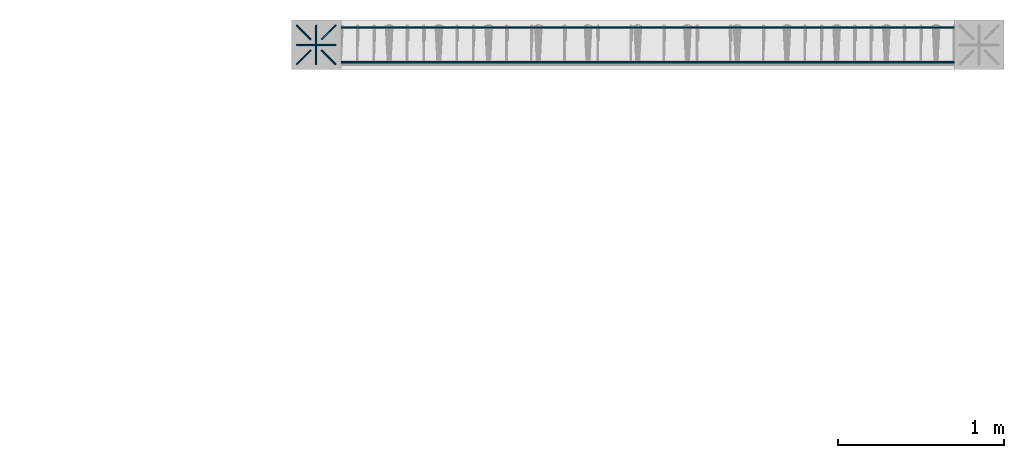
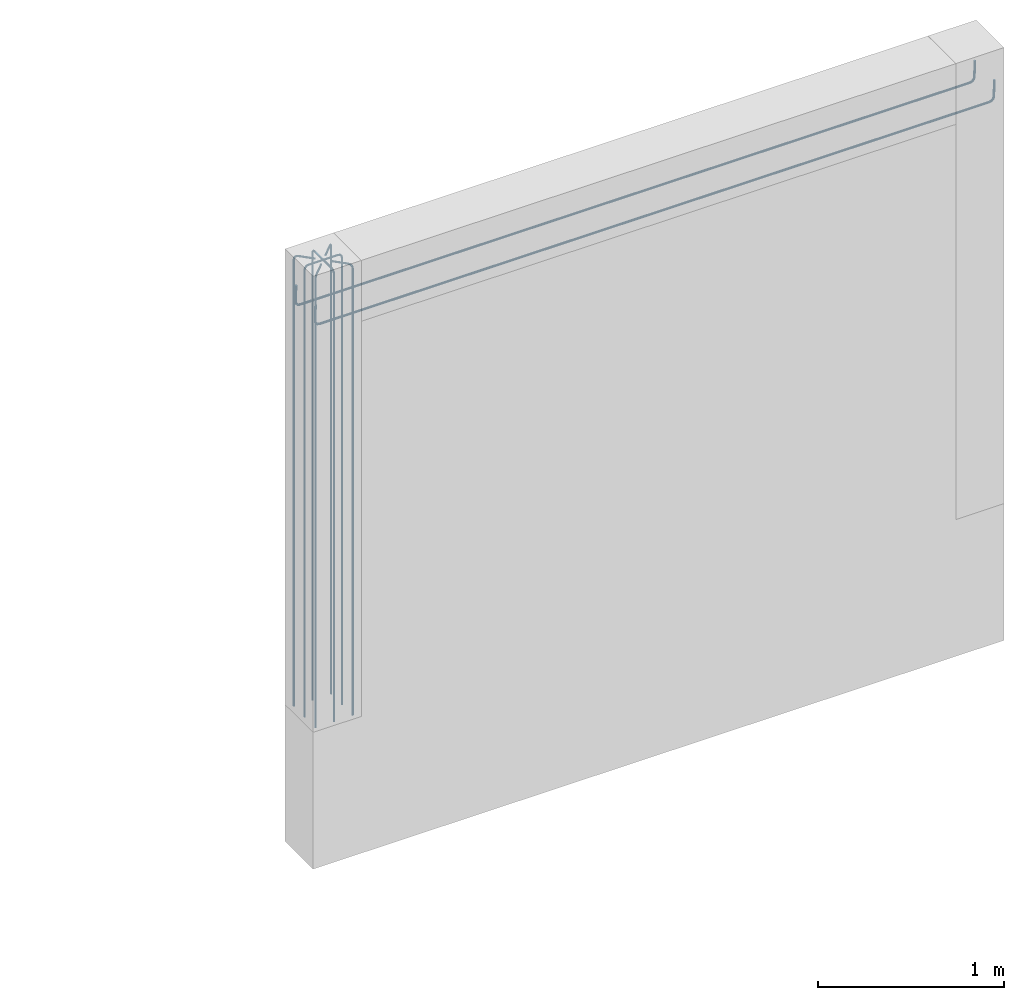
# One storey, part 7 of 11: 2 reinforcing bars.
"""IFC2X3 building model written with IfcOpenShell, lengths in metres."""

from ifc_helpers import new_model, entity, si_unit, direction, frame, origin, place, context, subcontext, project, spatial, shape, source, transform, mapped, element, save


model = new_model("IFC2X3")

# Units and contexts
model_context = context("Model", 3, precision=0.0, world=origin(), true_north=direction((0.0, 1.0)))
plan_context = context("Plan", 3, precision=0.0, world=origin(), true_north=direction((0.0, 1.0)))
body_context = subcontext(model_context, "Body", "Model", "MODEL_VIEW", scale=1.0)
ifc_project = project(units=[si_unit("LENGTHUNIT", "METRE"), si_unit("AREAUNIT", "SQUARE_METRE"), si_unit("VOLUMEUNIT", "CUBIC_METRE"), si_unit("PLANEANGLEUNIT", "RADIAN"), si_unit("THERMODYNAMICTEMPERATUREUNIT", "DEGREE_CELSIUS"), si_unit("FORCEUNIT", "NEWTON"), si_unit("MASSUNIT", "GRAM", prefix="KILO")], contexts=[model_context, plan_context])

# Site, building, storey
placement = place(None, origin())
site = spatial("IfcSite", under=ifc_project, at=placement, Name="Default Site", CompositionType="ELEMENT")
building = spatial("IfcBuilding", under=site, at=placement, Name="Default Building", CompositionType="ELEMENT")
storey_placement = place(placement, frame((0.0, 0.0, 3.0), z_axis=(1.0, 0.0, 0.0), x_axis=(0.0, 0.0, 1.0)))
storey = spatial("IfcBuildingStorey", under=building, at=storey_placement, Name="Piano 1", CompositionType="ELEMENT", Elevation=3.0)

# Reinforcing bars
shared_shape_1 = source(origin(), body_context, None, "AdvancedSweptSolid", [
    entity("IfcSweptDiskSolid", entity("IfcCompositeCurve", [entity("IfcCompositeCurveSegment", "CONTINUOUS", True, entity("IfcPolyline", [entity("IfcCartesianPoint", [0.0, 0.0, 0.0]), entity("IfcCartesianPoint", [0.0, 0.005059, -0.112029]), entity("IfcCartesianPoint", [0.003751, 0.005691, -0.126014]), entity("IfcCartesianPoint", [0.014, 0.006153, -0.136253]), entity("IfcCartesianPoint", [0.028, 0.006323, -0.14]), entity("IfcCartesianPoint", [4.196, 0.006323, -0.14]), entity("IfcCartesianPoint", [4.21, 0.006153, -0.136253]), entity("IfcCartesianPoint", [4.220249, 0.005691, -0.126014]), entity("IfcCartesianPoint", [4.224, 0.005059, -0.112029]), entity("IfcCartesianPoint", [4.224, 0.0, 0.0])]))], False), 0.007, 0.0, 0.0),
])
shared_shape_2 = source(origin(), body_context, None, "MappedRepresentation", [mapped(shared_shape_1, transform((32.388, 2.888677, 2.778)))])
shared_shape_3 = source(origin(), body_context, None, "AdvancedSweptSolid", [
    entity("IfcSweptDiskSolid", entity("IfcCompositeCurve", [entity("IfcCompositeCurveSegment", "CONTINUOUS", True, entity("IfcPolyline", [entity("IfcCartesianPoint", [0.0, 0.0, 0.0]), entity("IfcCartesianPoint", [0.0, 0.005059, -0.112029]), entity("IfcCartesianPoint", [0.003751, 0.005691, -0.126014]), entity("IfcCartesianPoint", [0.014, 0.006153, -0.136253]), entity("IfcCartesianPoint", [0.028, 0.006323, -0.14]), entity("IfcCartesianPoint", [4.196, 0.006323, -0.14]), entity("IfcCartesianPoint", [4.21, 0.006153, -0.136253]), entity("IfcCartesianPoint", [4.220249, 0.005691, -0.126014]), entity("IfcCartesianPoint", [4.224, 0.005059, -0.112029]), entity("IfcCartesianPoint", [4.224, 0.0, 0.0])]))], False), 0.007, 0.0, 0.0),
])
shared_shape_4 = source(origin(), body_context, None, "MappedRepresentation", [mapped(shared_shape_3, transform((32.388, 3.098677, 2.778)))])
element("IfcReinforcingBar", 1, at=placement, inside=storey, Name="Arm Inferiore; Trave:1 [Piano:1]", BarLength=8.983534, BarRole="MAIN", BarSurface="TEXTURED", NominalDiameter=0.014, shapes=[
    shape(body_context, None, "MappedRepresentation", [mapped(shared_shape_2, transform((0.0, 0.0, 0.0))), mapped(shared_shape_4, transform((0.0, 0.0, 0.0)))]),
])
shared_shape_5 = source(origin(), body_context, None, "AdvancedSweptSolid", [
    entity("IfcSweptDiskSolid", entity("IfcCompositeCurve", [entity("IfcCompositeCurveSegment", "CONTINUOUS", True, entity("IfcPolyline", [entity("IfcCartesianPoint", [0.0, 0.0, 0.0]), entity("IfcCartesianPoint", [0.0, 0.0, 2.942]), entity("IfcCartesianPoint", [0.002274, 0.002274, 2.954]), entity("IfcCartesianPoint", [0.008485, 0.008485, 2.962785]), entity("IfcCartesianPoint", [0.016971, 0.016971, 2.966]), entity("IfcCartesianPoint", [0.084853, 0.084853, 2.966])]))], False), 0.006, 0.0, 0.0),
])
shared_shape_6 = source(origin(), body_context, None, "MappedRepresentation", [mapped(shared_shape_5, transform((32.384, 2.884, 0.0)))])
shared_shape_7 = source(origin(), body_context, None, "AdvancedSweptSolid", [
    entity("IfcSweptDiskSolid", entity("IfcCompositeCurve", [entity("IfcCompositeCurveSegment", "CONTINUOUS", True, entity("IfcPolyline", [entity("IfcCartesianPoint", [0.0, 0.0, 0.0]), entity("IfcCartesianPoint", [0.0, 0.0, 2.942]), entity("IfcCartesianPoint", [-0.002274, 0.002274, 2.954]), entity("IfcCartesianPoint", [-0.008485, 0.008485, 2.962785]), entity("IfcCartesianPoint", [-0.016971, 0.016971, 2.966]), entity("IfcCartesianPoint", [-0.084853, 0.084853, 2.966])]))], False), 0.006, 0.0, 0.0),
])
shared_shape_8 = source(origin(), body_context, None, "MappedRepresentation", [mapped(shared_shape_7, transform((32.616, 2.884, 0.0)))])
shared_shape_9 = source(origin(), body_context, None, "AdvancedSweptSolid", [
    entity("IfcSweptDiskSolid", entity("IfcCompositeCurve", [entity("IfcCompositeCurveSegment", "CONTINUOUS", True, entity("IfcPolyline", [entity("IfcCartesianPoint", [0.0, 0.0, 0.0]), entity("IfcCartesianPoint", [0.0, 0.0, 2.942]), entity("IfcCartesianPoint", [-0.002274, -0.002274, 2.954]), entity("IfcCartesianPoint", [-0.008485, -0.008485, 2.962785]), entity("IfcCartesianPoint", [-0.016971, -0.016971, 2.966]), entity("IfcCartesianPoint", [-0.084853, -0.084853, 2.966])]))], False), 0.006, 0.0, 0.0),
])
shared_shape_10 = source(origin(), body_context, None, "MappedRepresentation", [mapped(shared_shape_9, transform((32.616, 3.116, 0.0)))])
shared_shape_11 = source(origin(), body_context, None, "AdvancedSweptSolid", [
    entity("IfcSweptDiskSolid", entity("IfcCompositeCurve", [entity("IfcCompositeCurveSegment", "CONTINUOUS", True, entity("IfcPolyline", [entity("IfcCartesianPoint", [0.0, 0.0, 0.0]), entity("IfcCartesianPoint", [0.0, 0.0, 2.942]), entity("IfcCartesianPoint", [0.002274, -0.002274, 2.954]), entity("IfcCartesianPoint", [0.008485, -0.008485, 2.962785]), entity("IfcCartesianPoint", [0.016971, -0.016971, 2.966]), entity("IfcCartesianPoint", [0.084853, -0.084853, 2.966])]))], False), 0.006, 0.0, 0.0),
])
shared_shape_12 = source(origin(), body_context, None, "MappedRepresentation", [mapped(shared_shape_11, transform((32.384, 3.116, 0.0)))])
shared_shape_13 = source(origin(), body_context, None, "AdvancedSweptSolid", [
    entity("IfcSweptDiskSolid", entity("IfcCompositeCurve", [entity("IfcCompositeCurveSegment", "CONTINUOUS", True, entity("IfcPolyline", [entity("IfcCartesianPoint", [0.0, 0.0, 0.0]), entity("IfcCartesianPoint", [0.0, 0.0, 2.942]), entity("IfcCartesianPoint", [0.0, 0.003215, 2.954]), entity("IfcCartesianPoint", [0.0, 0.012, 2.962785]), entity("IfcCartesianPoint", [0.0, 0.024, 2.966]), entity("IfcCartesianPoint", [0.0, 0.12, 2.966])]))], False), 0.006, 0.0, 0.0),
])
shared_shape_14 = source(origin(), body_context, None, "MappedRepresentation", [mapped(shared_shape_13, transform((32.5, 2.884, 0.0)))])
shared_shape_15 = source(origin(), body_context, None, "AdvancedSweptSolid", [
    entity("IfcSweptDiskSolid", entity("IfcCompositeCurve", [entity("IfcCompositeCurveSegment", "CONTINUOUS", True, entity("IfcPolyline", [entity("IfcCartesianPoint", [0.0, 0.0, 0.0]), entity("IfcCartesianPoint", [0.0, 0.0, 2.942]), entity("IfcCartesianPoint", [-0.003215, 0.0, 2.954]), entity("IfcCartesianPoint", [-0.012, 0.0, 2.962785]), entity("IfcCartesianPoint", [-0.024, 0.0, 2.966]), entity("IfcCartesianPoint", [-0.12, 0.0, 2.966])]))], False), 0.006, 0.0, 0.0),
])
shared_shape_16 = source(origin(), body_context, None, "MappedRepresentation", [mapped(shared_shape_15, transform((32.616, 3.0, 0.0)))])
shared_shape_17 = source(origin(), body_context, None, "AdvancedSweptSolid", [
    entity("IfcSweptDiskSolid", entity("IfcCompositeCurve", [entity("IfcCompositeCurveSegment", "CONTINUOUS", True, entity("IfcPolyline", [entity("IfcCartesianPoint", [0.0, 0.0, 0.0]), entity("IfcCartesianPoint", [0.0, 0.0, 2.942]), entity("IfcCartesianPoint", [0.0, -0.003215, 2.954]), entity("IfcCartesianPoint", [0.0, -0.012, 2.962785]), entity("IfcCartesianPoint", [0.0, -0.024, 2.966]), entity("IfcCartesianPoint", [0.0, -0.12, 2.966])]))], False), 0.006, 0.0, 0.0),
])
shared_shape_18 = source(origin(), body_context, None, "MappedRepresentation", [mapped(shared_shape_17, transform((32.5, 3.116, 0.0)))])
shared_shape_19 = source(origin(), body_context, None, "AdvancedSweptSolid", [
    entity("IfcSweptDiskSolid", entity("IfcCompositeCurve", [entity("IfcCompositeCurveSegment", "CONTINUOUS", True, entity("IfcPolyline", [entity("IfcCartesianPoint", [0.0, 0.0, 0.0]), entity("IfcCartesianPoint", [0.0, 0.0, 2.942]), entity("IfcCartesianPoint", [0.003215, 0.0, 2.954]), entity("IfcCartesianPoint", [0.012, 0.0, 2.962785]), entity("IfcCartesianPoint", [0.024, 0.0, 2.966]), entity("IfcCartesianPoint", [0.12, 0.0, 2.966])]))], False), 0.006, 0.0, 0.0),
])
shared_shape_20 = source(origin(), body_context, None, "MappedRepresentation", [mapped(shared_shape_19, transform((32.384, 3.0, 0.0)))])
element("IfcReinforcingBar", 2, at=placement, inside=storey, Name="Arm Principale; Pilastro:30 [Piano:1]", BarLength=24.60216, BarRole="MAIN", BarSurface="TEXTURED", NominalDiameter=0.012, shapes=[
    shape(body_context, None, "MappedRepresentation", [mapped(shared_shape_6, transform((0.0, 0.0, 0.0))), mapped(shared_shape_8, transform((0.0, 0.0, 0.0))), mapped(shared_shape_10, transform((0.0, 0.0, 0.0))), mapped(shared_shape_12, transform((0.0, 0.0, 0.0))), mapped(shared_shape_14, transform((0.0, 0.0, 0.0))), mapped(shared_shape_16, transform((0.0, 0.0, 0.0))), mapped(shared_shape_18, transform((0.0, 0.0, 0.0))), mapped(shared_shape_20, transform((0.0, 0.0, 0.0)))]),
])

save(model, "model.ifc")
